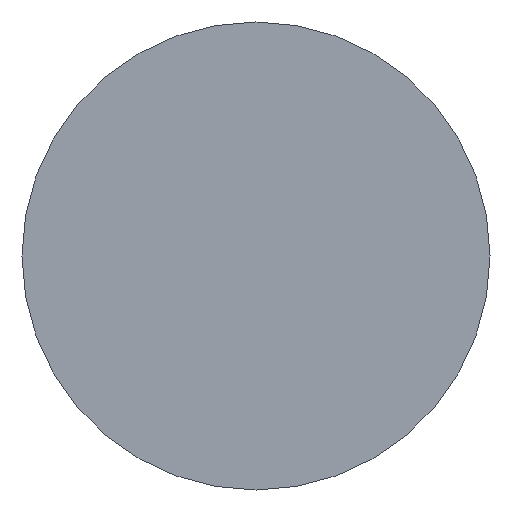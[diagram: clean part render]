
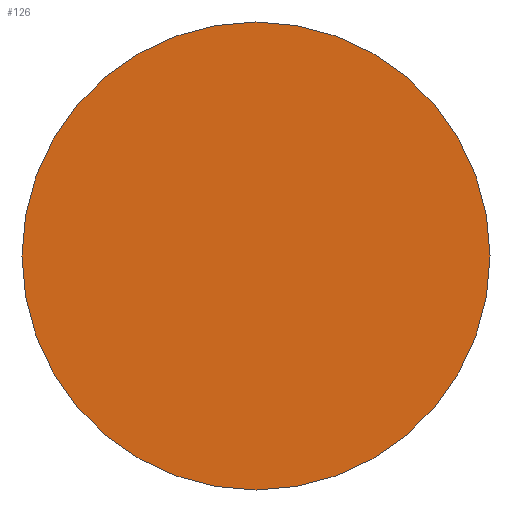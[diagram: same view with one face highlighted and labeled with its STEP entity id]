
A CAD part, left-side view. The second image highlights one B-rep face of the part: STEP entity #126.
In plain terms, the highlighted planar face has unit normal (-1, 0, 0).
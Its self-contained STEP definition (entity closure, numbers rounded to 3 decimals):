
#17 = DIRECTION ( 'NONE',  ( 0., -1., 0. ) ) ;
#20 = EDGE_CURVE ( 'NONE', #29, #71, #234, .T. ) ;
#24 = ORIENTED_EDGE ( 'NONE', *, *, #20, .F. ) ;
#29 = VERTEX_POINT ( 'NONE', #104 ) ;
#58 = ORIENTED_EDGE ( 'NONE', *, *, #262, .F. ) ;
#71 = VERTEX_POINT ( 'NONE', #272 ) ;
#88 = AXIS2_PLACEMENT_3D ( 'NONE', #221, #182, #17 ) ;
#102 = CIRCLE ( 'NONE', #213, 11. ) ;
#104 = CARTESIAN_POINT ( 'NONE',  ( 0., 11., 0. ) ) ;
#105 = CARTESIAN_POINT ( 'NONE',  ( 0., 0., 0. ) ) ;
#126 = ADVANCED_FACE ( 'NONE', ( #227 ), #229, .T. ) ;
#132 = EDGE_LOOP ( 'NONE', ( #24, #58 ) ) ;
#170 = CARTESIAN_POINT ( 'NONE',  ( 0., 0., 0. ) ) ;
#178 = AXIS2_PLACEMENT_3D ( 'NONE', #170, #266, #218 ) ;
#182 = DIRECTION ( 'NONE',  ( -1., 0., 0. ) ) ;
#205 = DIRECTION ( 'NONE',  ( 1., 0., 0. ) ) ;
#213 = AXIS2_PLACEMENT_3D ( 'NONE', #105, #205, #228 ) ;
#218 = DIRECTION ( 'NONE',  ( 0., 1., 0. ) ) ;
#221 = CARTESIAN_POINT ( 'NONE',  ( 0., 0., 0. ) ) ;
#227 = FACE_OUTER_BOUND ( 'NONE', #132, .T. ) ;
#228 = DIRECTION ( 'NONE',  ( 0., 1., 0. ) ) ;
#229 = PLANE ( 'NONE',  #88 ) ;
#234 = CIRCLE ( 'NONE', #178, 11. ) ;
#262 = EDGE_CURVE ( 'NONE', #71, #29, #102, .T. ) ;
#266 = DIRECTION ( 'NONE',  ( 1., 0., 0. ) ) ;
#272 = CARTESIAN_POINT ( 'NONE',  ( 0., -11., 0. ) ) ;
